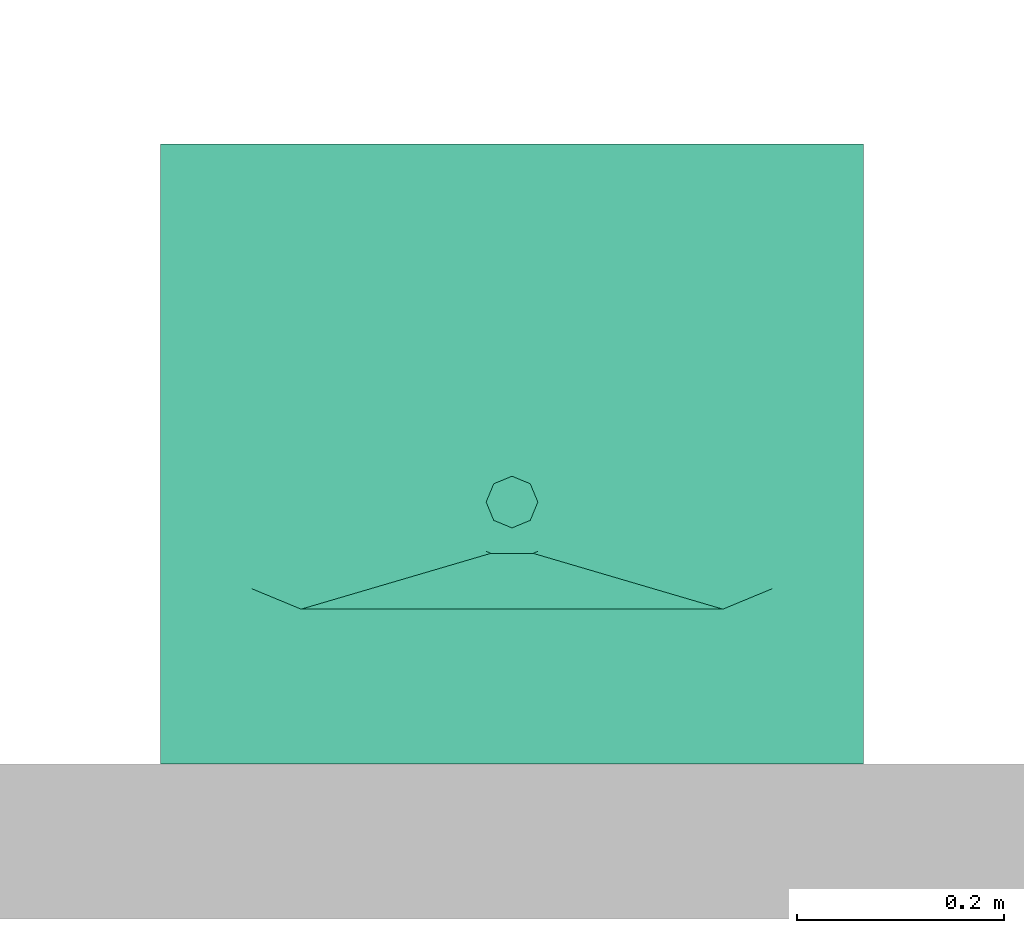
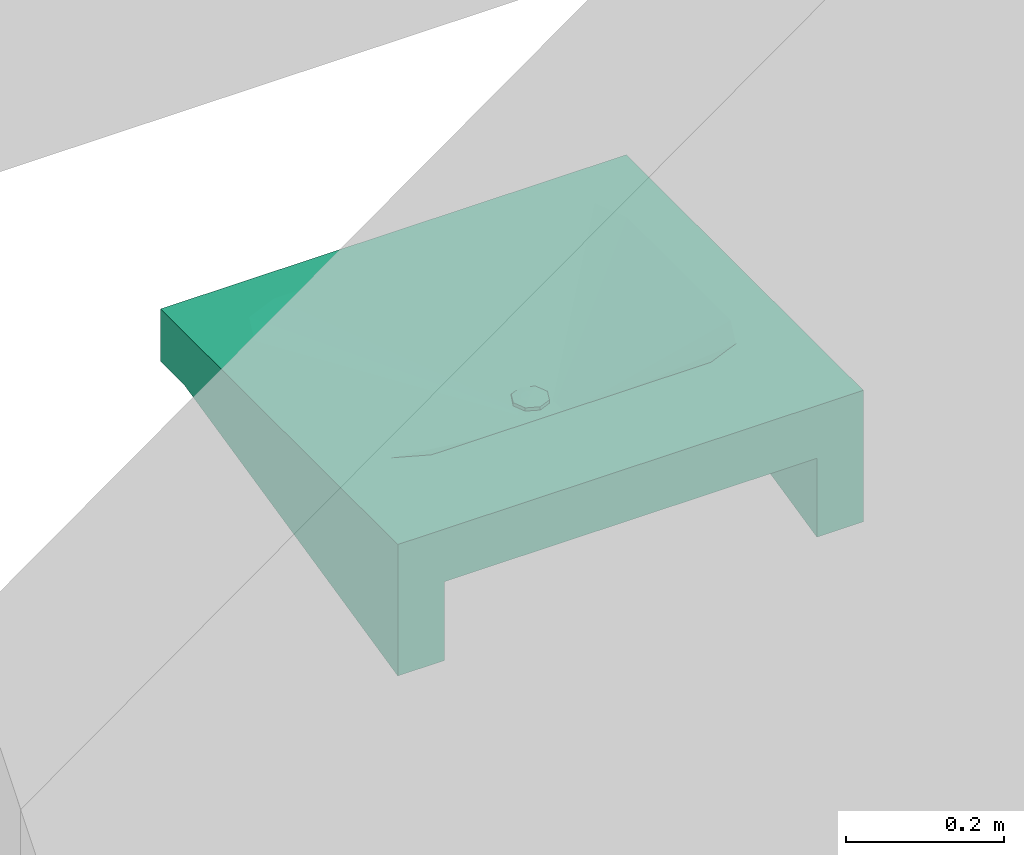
# One storey, part 40 of 48: 1 distribution flow element.
"""IFC2X3 building model written with IfcOpenShell, lengths in millimetres."""

import ifcopenshell
import ifcopenshell.guid

model = None  # the IFC model being written
_history = None  # IfcOwnerHistory: only IFC2X3 demands one
_inside = {}  # id of a spatial element -> (the spatial element, [elements in it])
_under = {}  # id of a project, library or spatial element -> (it, [spatial elements below it])
_declared = {}  # id of a project -> (the project, [libraries it declares])
_typed = {}  # id of a type object -> (the type object, [elements of that type])
_made_of = {}  # id of a material, layer set ... -> (it, [elements and type objects made of it])


def new_model(schema):
    """Start an empty IFC model of exactly this schema.

    Asked for "IFC4X3", IfcOpenShell would pick the latest addendum, in which some entities
    have other attributes; the version numbers below select the first issue.
    IFC2X3 requires an IfcOwnerHistory on every rooted entity: one is made here for all.
    """
    global model, _history
    if schema == "IFC4X3":
        model = ifcopenshell.file(schema_version=(4, 3, 0, 0))
    else:
        model = ifcopenshell.file(schema=schema)
    _inside.clear()
    _under.clear()
    _declared.clear()
    _typed.clear()
    _made_of.clear()
    _history = None
    if model.schema == "IFC2X3":
        org = make("IfcOrganization", Name="unknown")
        user = make(
            "IfcPersonAndOrganization",
            ThePerson=make("IfcPerson", FamilyName="unknown"),
            TheOrganization=org,
        )
        app = make(
            "IfcApplication",
            ApplicationDeveloper=org,
            Version="unknown",
            ApplicationFullName="unknown",
            ApplicationIdentifier="unknown",
        )
        _history = make(
            "IfcOwnerHistory",
            OwningUser=user,
            OwningApplication=app,
            ChangeAction="ADDED",
            CreationDate=0,
        )
    return model


def make(cls, **values):
    """One entity of the class cls with the attributes given. An attribute that is None is left unset."""
    return model.create_entity(
        cls, **{name: value for name, value in values.items() if value is not None}
    )


def entity(cls, *values):
    """Any entity or typed value of the class cls, its attributes in the order of the schema. None: left unset."""
    e = model.create_entity(cls)
    for i, value in enumerate(values):
        if value is not None:
            e[i] = value
    return e


def rooted(cls, **values):
    """An entity with a GlobalId (a new one), such as an element, a storey or a relation."""
    return make(cls, GlobalId=ifcopenshell.guid.new(), OwnerHistory=_history, **values)


def si_unit(unit_type, name, prefix=None):
    """IfcSIUnit, for example si_unit("LENGTHUNIT", "METRE", prefix="MILLI")."""
    return make("IfcSIUnit", UnitType=unit_type, Prefix=prefix, Name=name)


def converted_unit(unit_type, name, factor, base, dimensions=None, offset=None):
    """IfcConversionBasedUnit, such as the inch: factor (a typed value) times the base unit."""
    return make(
        "IfcConversionBasedUnit"
        if offset is None
        else "IfcConversionBasedUnitWithOffset",
        ConversionOffset=offset,
        Dimensions=None
        if dimensions is None
        else entity("IfcDimensionalExponents", *dimensions),
        UnitType=unit_type,
        Name=name,
        ConversionFactor=make(
            "IfcMeasureWithUnit", ValueComponent=factor, UnitComponent=base
        ),
    )


def derived_unit(unit_type, elements):
    """IfcDerivedUnit: a product of units, each with its exponent."""
    return make(
        "IfcDerivedUnit",
        Elements=[
            make("IfcDerivedUnitElement", Unit=unit, Exponent=power)
            for unit, power in elements
        ],
        UnitType=unit_type,
    )


def money_unit(currency):
    """IfcMonetaryUnit."""
    return make("IfcMonetaryUnit", Currency=currency)


def assignment(units):
    """IfcUnitAssignment: the units of a project."""
    return None if units is None else make("IfcUnitAssignment", Units=units)


def point(xyz):
    """IfcCartesianPoint."""
    return None if xyz is None else make("IfcCartesianPoint", Coordinates=xyz)


def direction(xyz):
    """IfcDirection."""
    return None if xyz is None else make("IfcDirection", DirectionRatios=xyz)


def frame(location, z_axis=None, x_axis=None):
    """IfcAxis2Placement3D, a coordinate frame: its origin and axes. An axis left out is left unset."""
    return make(
        "IfcAxis2Placement3D",
        Location=point(location),
        Axis=direction(z_axis),
        RefDirection=direction(x_axis),
    )


def origin_with_axes():
    """The frame at (0, 0, 0) with the z axis (0, 0, 1) and the x axis (1, 0, 0) written out."""
    return frame((0.0, 0.0, 0.0), z_axis=(0.0, 0.0, 1.0), x_axis=(1.0, 0.0, 0.0))


def place(relative_to, where):
    """IfcLocalPlacement: puts the frame where relative to a parent placement (None: the world)."""
    return make(
        "IfcLocalPlacement", PlacementRelTo=relative_to, RelativePlacement=where
    )


def context(
    kind, dimensions, precision=None, world=None, true_north=None, identifier=None
):
    """IfcGeometricRepresentationContext, for example the 3D "Model" context."""
    return make(
        "IfcGeometricRepresentationContext",
        ContextIdentifier=identifier,
        ContextType=kind,
        CoordinateSpaceDimension=dimensions,
        Precision=precision,
        WorldCoordinateSystem=world,
        TrueNorth=true_north,
    )


def subcontext(parent, identifier, kind, view, scale=None):
    """IfcGeometricRepresentationSubContext, for example "Body" below "Model"."""
    return make(
        "IfcGeometricRepresentationSubContext",
        ContextIdentifier=identifier,
        ContextType=kind,
        ParentContext=parent,
        TargetScale=scale,
        TargetView=view,
    )


def project(units=None, contexts=None):
    """IfcProject with its units and contexts."""
    return rooted(
        "IfcProject",
        Name="project",
        RepresentationContexts=contexts,
        UnitsInContext=assignment(units),
    )


def spatial(cls, under=None, at=None, **own):
    """A site, building, storey or space (cls), placed at a placement, below another one or the project."""
    s = rooted(cls, ObjectPlacement=at, **own)
    if under is not None:
        _under.setdefault(under.id(), (under, []))[1].append(s)
    return s


def faces_of(points, faces, orient=None, outer=None):
    """IfcFace entities. A face is a list of loops; a loop is a list of indices into points, from 0.

    orient and outer hold one flag for each loop. By default every Orientation is true, the
    first loop of a face is its IfcFaceOuterBound and the others are IfcFaceBound.
    """
    made = []
    for i, loops in enumerate(faces):
        bounds = []
        for j, loop in enumerate(loops):
            is_outer = j == 0 if outer is None else outer[i][j]
            bounds.append(
                make(
                    "IfcFaceOuterBound" if is_outer else "IfcFaceBound",
                    Bound=make("IfcPolyLoop", Polygon=[points[k] for k in loop]),
                    Orientation=True if orient is None else orient[i][j],
                )
            )
        made.append(make("IfcFace", Bounds=bounds))
    return made


def open_shell(faces, orient=None, outer=None):
    """The faces of one IfcOpenShell. surface_model builds it on its shared points."""
    return ("IfcOpenShell", faces, orient, outer)


def faceted_brep(points, faces, orient=None, outer=None, voids=None):
    """IfcFacetedBrep: a solid bounded by flat faces; with voids (closed shells), ...WithVoids."""
    shared = [point(p) for p in points]
    hull = make("IfcClosedShell", CfsFaces=faces_of(shared, faces, orient, outer))
    if voids is None:
        return make("IfcFacetedBrep", Outer=hull)
    return make(
        "IfcFacetedBrepWithVoids",
        Outer=hull,
        Voids=[
            make(cls, CfsFaces=faces_of(shared, fs, o, b)) for cls, fs, o, b in voids
        ],
    )


def surface_model(cls, points, shells):
    """IfcFaceBasedSurfaceModel or IfcShellBasedSurfaceModel (cls): surfaces that need not close."""
    shared = [point(p) for p in points]
    made = [make(c, CfsFaces=faces_of(shared, fs, o, b)) for c, fs, o, b in shells]
    if cls == "IfcFaceBasedSurfaceModel":
        return make(cls, FbsmFaces=made)
    return make(cls, SbsmBoundary=made)


def shape(context_of_items, identifier, shape_type, items):
    """IfcShapeRepresentation: the items that make up one representation, for example the "Body"."""
    return make(
        "IfcShapeRepresentation",
        ContextOfItems=context_of_items,
        RepresentationIdentifier=identifier,
        RepresentationType=shape_type,
        Items=items,
    )


def source(mapping_origin, context_of_items, identifier, shape_type, items):
    """IfcRepresentationMap: a shape defined once, which mapped items show again and again."""
    return make(
        "IfcRepresentationMap",
        MappingOrigin=mapping_origin,
        MappedRepresentation=shape(context_of_items, identifier, shape_type, items),
    )


def transform(
    local_origin,
    x_axis=None,
    y_axis=None,
    z_axis=None,
    scale=None,
    scale2=None,
    scale3=None,
    uniform=True,
):
    """IfcCartesianTransformationOperator3D, or its non-uniform kind. x_axis, y_axis, z_axis: its Axis1, 2, 3."""
    if uniform:
        return make(
            "IfcCartesianTransformationOperator3D",
            Axis1=direction(x_axis),
            Axis2=direction(y_axis),
            LocalOrigin=point(local_origin),
            Scale=scale,
            Axis3=direction(z_axis),
        )
    return make(
        "IfcCartesianTransformationOperator3DnonUniform",
        Axis1=direction(x_axis),
        Axis2=direction(y_axis),
        LocalOrigin=point(local_origin),
        Scale=scale,
        Axis3=direction(z_axis),
        Scale2=scale2,
        Scale3=scale3,
    )


def mapped(mapping_source, mapping_target):
    """IfcMappedItem: shows the shape of a source again, moved by a transform."""
    return make(
        "IfcMappedItem", MappingSource=mapping_source, MappingTarget=mapping_target
    )


def made_of(thing, what):
    """Note that an element or type object is made of a material, layer set ...; save() writes the relation."""
    if what is not None:
        _made_of.setdefault(what.id(), (what, []))[1].append(thing)
    return thing


def type_object(cls, material=None, **own):
    """A type object (cls), such as IfcWallType, which elements share."""
    return made_of(rooted(cls, **own), material)


def element(
    cls,
    number,
    at=None,
    inside=None,
    cuts=None,
    type_object=None,
    material=None,
    context=None,
    identifier="Body",
    shape_type=None,
    held_by="IfcProductDefinitionShape",
    body=None,
    shapes=None,
    **own,
):
    """One element of the class cls, such as IfcWall. Its Tag is "e" and its number.

    at: its placement. inside: the storey or other place that contains it. cuts: it is an
    opening in that element (IfcRelVoidsElement). A single representation is given by context,
    identifier, shape_type and body (its items); several are given by shapes. held_by: the class
    of the entity that holds the representations. save() writes the other relations.
    """
    e = rooted(cls, Tag="e%d" % number, ObjectPlacement=at, **own)
    if body is not None:
        shapes = [shape(context, identifier, shape_type, body)]
    if shapes is not None:
        e.Representation = make(held_by, Representations=shapes)
    if inside is not None:
        _inside.setdefault(inside.id(), (inside, []))[1].append(e)
    if cuts is not None:
        rooted(
            "IfcRelVoidsElement", RelatingBuildingElement=cuts, RelatedOpeningElement=e
        )
    if type_object is not None:
        _typed.setdefault(type_object.id(), (type_object, []))[1].append(e)
    return made_of(e, material)


def aggregate(whole, parts):
    """IfcRelAggregates: a whole, such as a stair, and the parts it consists of."""
    return rooted("IfcRelAggregates", RelatingObject=whole, RelatedObjects=parts)


def save(model, path):
    """Write the relations noted so far, then the file.

    IfcRelAggregates (storeys below a building ...), IfcRelContainedInSpatialStructure (elements
    in a storey), IfcRelDefinesByType, IfcRelAssociatesMaterial and IfcRelDeclares: one each for
    every whole, place, type object, material and project.
    """
    for whole, parts in _under.values():
        aggregate(whole, parts)
    for where, things in _inside.values():
        rooted(
            "IfcRelContainedInSpatialStructure",
            RelatedElements=things,
            RelatingStructure=where,
        )
    for kind, things in _typed.values():
        rooted("IfcRelDefinesByType", RelatedObjects=things, RelatingType=kind)
    for what, things in _made_of.values():
        rooted("IfcRelAssociatesMaterial", RelatedObjects=things, RelatingMaterial=what)
    for by, libraries in _declared.values():
        rooted("IfcRelDeclares", RelatingContext=by, RelatedDefinitions=libraries)
    model.write(path)


model = new_model("IFC2X3")

# Units and contexts
model_context = context("Model", 3, precision=0.01, world=origin_with_axes(), true_north=direction((0.0, 1.0)))
body_context = subcontext(model_context, "Body", "Model", "MODEL_VIEW")
ifc_project = project(units=[si_unit("LENGTHUNIT", "METRE", prefix="MILLI"), si_unit("AREAUNIT", "SQUARE_METRE"), si_unit("VOLUMEUNIT", "CUBIC_METRE"), converted_unit("PLANEANGLEUNIT", "DEGREE", entity("IfcPlaneAngleMeasure", 0.0174532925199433), si_unit("PLANEANGLEUNIT", "RADIAN"), dimensions=[0, 0, 0, 0, 0, 0, 0]), money_unit("USD"), converted_unit("TIMEUNIT", "Year", entity("IfcTimeMeasure", 31557600.0), si_unit("TIMEUNIT", "SECOND"), dimensions=[0, 0, 1, 0, 0, 0, 0]), si_unit("MASSUNIT", "GRAM", prefix="KILO"), si_unit("THERMODYNAMICTEMPERATUREUNIT", "DEGREE_CELSIUS"), si_unit("LUMINOUSINTENSITYUNIT", "LUMEN"), si_unit("ENERGYUNIT", "JOULE", prefix="MEGA"), derived_unit("THERMALCONDUCTANCEUNIT", [(si_unit("POWERUNIT", "WATT"), 1), (si_unit("LENGTHUNIT", "METRE"), -1), (si_unit("THERMODYNAMICTEMPERATUREUNIT", "KELVIN"), -1)]), derived_unit("SPECIFICHEATCAPACITYUNIT", [(si_unit("ENERGYUNIT", "JOULE"), 1), (si_unit("MASSUNIT", "GRAM", prefix="KILO"), -1), (si_unit("THERMODYNAMICTEMPERATUREUNIT", "KELVIN"), -1)]), derived_unit("MASSDENSITYUNIT", [(si_unit("MASSUNIT", "GRAM", prefix="KILO"), 1), (si_unit("VOLUMEUNIT", "CUBIC_METRE"), -1)])], contexts=[model_context])

# Site, building, storey
site_placement = place(None, origin_with_axes())
site = spatial("IfcSite", under=ifc_project, at=site_placement, Name="Site", CompositionType="ELEMENT")
building_placement = place(site_placement, origin_with_axes())
building = spatial("IfcBuilding", under=site, at=building_placement, Name="Building", CompositionType="ELEMENT")
storey_placement = place(building_placement, frame((0.0, 0.0, 3300.0), z_axis=(0.0, 0.0, 1.0), x_axis=(1.0, 0.0, 0.0)))
storey = spatial("IfcBuildingStorey", under=building, at=storey_placement, Name="1 ETG", CompositionType="ELEMENT", Elevation=3300.0)

# Distribution flow element
valve_type = type_object("IfcValveType", Name="Servant", PredefinedType="USERDEFINED")
shared_shape = source(origin_with_axes(), body_context, "Body", "SurfaceModel", [
    surface_model("IfcShellBasedSurfaceModel", [(-340.0, 0.0, 818.8000000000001), (-340.0, -600.0, 818.8000000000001), (-340.0, -600.0, 900.0000000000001), (-340.0, 0.0, 900.0000000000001), (-272.0, 0.0, 818.8000000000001), (272.0, 0.0, 818.8000000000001), (340.0, 0.0, 818.8000000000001), (340.0, -600.0, 818.8000000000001), (0.0, -150.0, 818.8000000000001), (-204.0, -150.0, 818.8000000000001), (-252.0832611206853, -169.9167388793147, 818.8000000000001), (-272.0, -218.0, 818.8000000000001), (-272.0, -480.0, 818.8000000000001), (-252.0832611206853, -528.0832611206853, 818.8000000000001), (-204.0, -548.0, 818.8000000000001), (204.0, -548.0, 818.8000000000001), (252.0832611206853, -528.0832611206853, 818.8000000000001), (272.0, -480.0, 818.8000000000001), (272.0, -218.0, 818.8000000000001), (252.0832611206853, -169.9167388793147, 818.8000000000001), (204.0, -150.0, 818.8000000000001), (340.0, -600.0, 900.0000000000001), (340.0, 0.0, 900.0000000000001), (272.0, 0.0, 900.0000000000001), (-272.0, 0.0, 900.0000000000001), (0.0, -150.0, 900.0000000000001), (204.0, -150.0, 900.0000000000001), (252.0832611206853, -169.9167388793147, 900.0000000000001), (272.0, -218.0, 900.0000000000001), (272.0, -480.0, 900.0000000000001), (252.0832611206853, -528.0832611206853, 900.0000000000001), (204.0, -548.0, 900.0000000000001), (-204.0, -548.0, 900.0000000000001), (-252.0832611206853, -528.0832611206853, 900.0000000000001), (-272.0, -480.0, 900.0000000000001), (-272.0, -218.0, 900.0000000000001), (-252.0832611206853, -169.9167388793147, 900.0000000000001), (-204.0, -150.0, 900.0000000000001)], [open_shell([[[0, 1, 2, 3]], [[0, 4, 5, 6, 7, 1], [8, 9, 10, 11, 12, 13, 14, 15, 16, 17, 18, 19, 20]], [[1, 7, 21, 2]], [[3, 2, 21, 22, 23, 24], [25, 26, 27, 28, 29, 30, 31, 32, 33, 34, 35, 36, 37]], [[4, 0, 3, 24]], [[5, 4, 24, 23]], [[6, 5, 23, 22]], [[7, 6, 22, 21]]])]),
    surface_model("IfcShellBasedSurfaceModel", [(340.0, 0.0, 818.8000000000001), (340.0, 0.0, 697.0000000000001), (272.0, 0.0, 697.0000000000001), (272.0, 0.0, 818.8000000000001), (340.0, -540.0, 818.8000000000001), (272.0, -540.0, 818.8000000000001)], [open_shell([[[0, 1, 2, 3]], [[0, 4, 1]], [[1, 4, 5, 2]], [[3, 2, 5]]])]),
    surface_model("IfcShellBasedSurfaceModel", [(-272.0000000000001, 0.0, 818.8000000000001), (-272.0000000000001, 0.0, 697.0000000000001), (-340.0000000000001, 0.0, 697.0000000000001), (-340.0000000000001, 0.0, 818.8000000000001), (-272.0000000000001, -540.0, 818.8000000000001), (-340.0000000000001, -540.0, 818.8000000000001)], [open_shell([[[0, 1, 2, 3]], [[0, 4, 1]], [[1, 4, 5, 2]], [[3, 2, 5]]])]),
    surface_model("IfcShellBasedSurfaceModel", [(204.0, -150.0, 900.0000000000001), (25.20832611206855, -205.9916738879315, 846.7125000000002), (20.40000000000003, -204.0, 846.7125000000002), (252.0832611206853, -169.9167388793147, 900.0000000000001), (27.20000000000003, -210.8, 846.7125000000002), (27.20000000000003, -237.0, 846.7125000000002), (25.20832611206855, -241.8083261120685, 846.7125000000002), (20.40000000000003, -243.8, 846.7125000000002), (-20.39999999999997, -243.8, 846.7125000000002), (-25.20832611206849, -241.8083261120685, 846.7125000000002), (-27.19999999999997, -237.0, 846.7125000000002), (-27.19999999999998, -210.8, 846.7125000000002), (-25.2083261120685, -205.9916738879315, 846.7125000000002), (-20.39999999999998, -204.0, 846.7125000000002), (-204.0, -150.0, 900.0000000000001), (272.0, -218.0, 900.0000000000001), (272.0000000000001, -479.9999999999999, 900.0000000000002), (252.0832611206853, -528.0832611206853, 900.0000000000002), (204.0000000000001, -548.0, 900.0000000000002), (-204.0, -548.0, 900.0000000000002), (-252.0832611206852, -528.0832611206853, 900.0000000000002), (-271.9999999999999, -480.0000000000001, 900.0000000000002), (-272.0, -218.0, 900.0000000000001), (-252.0832611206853, -169.9167388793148, 900.0000000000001)], [open_shell([[[0, 1, 2]], [[1, 0, 3]], [[2, 1, 4, 5, 6, 7, 8, 9, 10, 11, 12, 13]], [[2, 14, 0]], [[3, 4, 1]], [[15, 5, 4]], [[16, 6, 5]], [[17, 7, 6]], [[18, 8, 7]], [[19, 9, 8]], [[20, 10, 9]], [[21, 11, 10]], [[22, 12, 11]], [[23, 13, 12]], [[14, 2, 13]], [[4, 3, 15]], [[5, 15, 16]], [[6, 16, 17]], [[7, 17, 18]], [[8, 18, 19]], [[9, 19, 20]], [[10, 20, 21]], [[11, 21, 22]], [[12, 22, 23]], [[13, 23, 14]]])]),
    surface_model("IfcShellBasedSurfaceModel", [(204.0, -150.0, 818.8000000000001), (25.20832611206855, -205.9916738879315, 765.5125000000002), (20.40000000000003, -204.0, 765.5125000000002), (252.0832611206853, -169.9167388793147, 818.8000000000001), (27.20000000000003, -210.8, 765.5125000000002), (27.20000000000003, -237.0, 765.5125000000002), (25.20832611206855, -241.8083261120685, 765.5125000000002), (20.40000000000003, -243.8, 765.5125000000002), (-20.39999999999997, -243.8, 765.5125000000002), (-25.20832611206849, -241.8083261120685, 765.5125000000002), (-27.19999999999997, -237.0, 765.5125000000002), (-27.19999999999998, -210.8, 765.5125000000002), (-25.2083261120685, -205.9916738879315, 765.5125000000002), (-20.39999999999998, -204.0, 765.5125000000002), (-204.0, -150.0, 818.8000000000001), (272.0, -218.0, 818.8000000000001), (272.0000000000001, -479.9999999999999, 818.8000000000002), (252.0832611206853, -528.0832611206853, 818.8000000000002), (204.0000000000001, -548.0, 818.8000000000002), (-204.0, -548.0, 818.8000000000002), (-252.0832611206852, -528.0832611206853, 818.8000000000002), (-271.9999999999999, -480.0000000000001, 818.8000000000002), (-272.0, -218.0, 818.8000000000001), (-252.0832611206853, -169.9167388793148, 818.8000000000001)], [open_shell([[[0, 1, 2]], [[1, 0, 3]], [[2, 1, 4, 5, 6, 7, 8, 9, 10, 11, 12, 13]], [[2, 14, 0]], [[3, 4, 1]], [[15, 5, 4]], [[16, 6, 5]], [[17, 7, 6]], [[18, 8, 7]], [[19, 9, 8]], [[20, 10, 9]], [[21, 11, 10]], [[22, 12, 11]], [[23, 13, 12]], [[14, 2, 13]], [[4, 3, 15]], [[5, 15, 16]], [[6, 16, 17]], [[7, 17, 18]], [[8, 18, 19]], [[9, 19, 20]], [[10, 20, 21]], [[11, 21, 22]], [[12, 22, 23]], [[13, 23, 14]]])]),
    faceted_brep([(17.67766952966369, -271.2976695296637, 850.0000000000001), (0.0, -278.6200000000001, 850.0000000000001), (-17.67766952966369, -271.2976695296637, 850.0000000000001), (-25.00000000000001, -253.62, 850.0000000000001), (-17.67766952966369, -235.9423304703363, 850.0000000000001), (0.0, -228.62, 850.0000000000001), (17.67766952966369, -235.9423304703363, 850.0000000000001), (25.0, -253.62, 850.0000000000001), (17.67766952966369, -271.2976695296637, 855.0000000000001), (0.0, -278.6200000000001, 855.0000000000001), (-17.67766952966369, -271.2976695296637, 855.0000000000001), (-25.00000000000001, -253.62, 855.0000000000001), (-17.67766952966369, -235.9423304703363, 855.0000000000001), (0.0, -228.62, 855.0000000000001), (17.67766952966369, -235.9423304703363, 855.0000000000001), (25.0, -253.62, 855.0000000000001)], [[[0, 1, 2, 3, 4, 5, 6, 7]], [[1, 0, 8, 9]], [[2, 1, 9, 10]], [[3, 2, 10, 11]], [[4, 3, 11, 12]], [[5, 4, 12, 13]], [[6, 5, 13, 14]], [[7, 6, 14, 15]], [[0, 7, 15, 8]], [[8, 15, 14, 13, 12, 11, 10, 9]]]),
    surface_model("IfcShellBasedSurfaceModel", [(0.0, -253.62, 857.0000000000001), (0.0, -240.99809443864, 856.4975737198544), (-8.925035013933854, -244.6949649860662, 856.4975737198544), (8.925035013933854, -244.6949649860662, 856.4975737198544), (0.0, -228.62, 855.0000000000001), (-17.67766952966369, -235.9423304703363, 855.0000000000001), (-12.62190556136, -253.62, 856.4975737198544), (12.62190556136, -253.62, 856.4975737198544), (17.67766952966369, -235.9423304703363, 855.0000000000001), (-25.00000000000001, -253.62, 855.0000000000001), (-8.925035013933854, -262.5450350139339, 856.4975737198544), (8.925035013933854, -262.5450350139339, 856.4975737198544), (25.00000000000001, -253.62, 855.0000000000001), (-17.67766952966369, -271.2976695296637, 855.0000000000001), (0.0, -266.24190556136, 856.4975737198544), (17.67766952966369, -271.2976695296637, 855.0000000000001), (0.0, -278.6200000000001, 855.0000000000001)], [open_shell([[[0, 1, 2]], [[0, 3, 1]], [[2, 1, 4, 5]], [[0, 2, 6]], [[0, 7, 3]], [[1, 3, 8, 4]], [[6, 2, 5, 9]], [[0, 6, 10]], [[0, 11, 7]], [[3, 7, 12, 8]], [[10, 6, 9, 13]], [[0, 10, 14]], [[0, 14, 11]], [[7, 11, 15, 12]], [[14, 10, 13, 16]], [[11, 14, 16, 15]]])]),
])
distribution_flow_element_placement = place(storey_placement, frame((10002.335462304, 26674.85318353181, 100.0000000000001), z_axis=(0.0, 0.0, 1.0), x_axis=(-1.0, 0.0, 0.0)))
element("IfcDistributionFlowElement", 1, at=distribution_flow_element_placement, inside=storey, type_object=valve_type, Name="FU - 001", ObjectType="Distribution Flow Element", context=body_context, shape_type="MappedRepresentation", body=[
    mapped(shared_shape, transform((0.0, 0.0, 0.0))),
])

save(model, "model.ifc")
